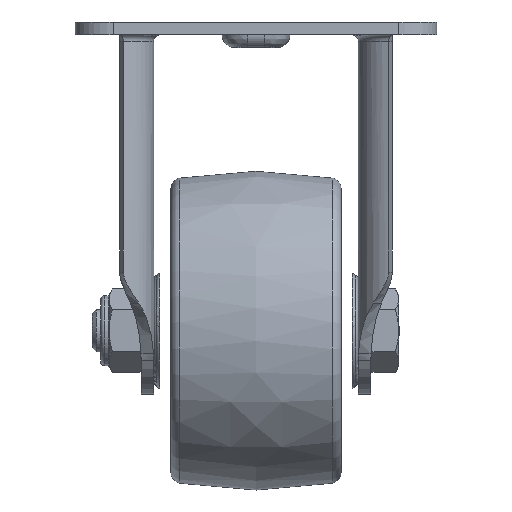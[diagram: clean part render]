
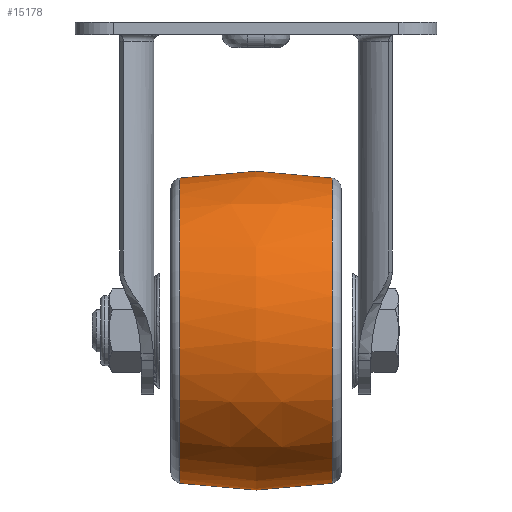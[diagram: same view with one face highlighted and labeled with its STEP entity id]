
A CAD part, left-side view. The second image highlights one B-rep face of the part: STEP entity #15178.
In plain terms, the highlighted free-form (B-spline) face has degree [2, 2] with [3, 9] control points.
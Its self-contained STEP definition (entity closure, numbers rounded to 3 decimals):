
#106=(
BOUNDED_SURFACE()
B_SPLINE_SURFACE(2,2,((#22804,#22805,#22806,#22807,#22808,#22809,#22810,
#22811,#22812),(#22813,#22814,#22815,#22816,#22817,#22818,#22819,#22820,
#22821),(#22822,#22823,#22824,#22825,#22826,#22827,#22828,#22829,#22830)),
 .UNSPECIFIED.,.F.,.T.,.F.)
B_SPLINE_SURFACE_WITH_KNOTS((3,3),(3,2,2,2,3),(-0.18,0.18),
(-3.142,-1.571,0.,1.571,3.142),
 .UNSPECIFIED.)
GEOMETRIC_REPRESENTATION_ITEM()
RATIONAL_B_SPLINE_SURFACE(((1.,0.707,1.,0.707,1.,
0.707,1.,0.707,1.),(0.984,0.696,
0.984,0.696,0.984,0.696,
0.984,0.696,0.984),(1.,0.707,
1.,0.707,1.,0.707,1.,0.707,1.)))
REPRESENTATION_ITEM('')
SURFACE()
);
#144=CIRCLE('',#15900,35.876);
#145=CIRCLE('',#15901,100.);
#146=CIRCLE('',#15902,35.876);
#1772=FACE_OUTER_BOUND('',#2631,.T.);
#2631=EDGE_LOOP('',(#11605,#11606,#11607,#11608));
#6728=VERTEX_POINT('',#22801);
#6729=VERTEX_POINT('',#22831);
#8596=EDGE_CURVE('',#6728,#6728,#144,.T.);
#8597=EDGE_CURVE('',#6728,#6729,#145,.T.);
#8598=EDGE_CURVE('',#6729,#6729,#146,.T.);
#11605=ORIENTED_EDGE('',*,*,#8596,.F.);
#11606=ORIENTED_EDGE('',*,*,#8597,.T.);
#11607=ORIENTED_EDGE('',*,*,#8598,.T.);
#11608=ORIENTED_EDGE('',*,*,#8597,.F.);
#15178=ADVANCED_FACE('',(#1772),#106,.F.);
#15900=AXIS2_PLACEMENT_3D('',#22803,#17612,#17613);
#15901=AXIS2_PLACEMENT_3D('',#22832,#17614,#17615);
#15902=AXIS2_PLACEMENT_3D('',#22833,#17616,#17617);
#17612=DIRECTION('center_axis',(0.,-1.,0.));
#17613=DIRECTION('ref_axis',(0.6,0.,-0.8));
#17614=DIRECTION('center_axis',(-0.8,0.,-0.6));
#17615=DIRECTION('ref_axis',(-0.6,0.,0.8));
#17616=DIRECTION('center_axis',(0.,-1.,0.));
#17617=DIRECTION('ref_axis',(0.6,0.,-0.8));
#22801=CARTESIAN_POINT('',(-21.543,-17.949,-43.812));
#22803=CARTESIAN_POINT('Origin',(0.,-17.949,
-72.5));
#22804=CARTESIAN_POINT('Ctrl Pts',(-21.543,17.949,-43.812));
#22805=CARTESIAN_POINT('Ctrl Pts',(-50.231,17.949,-65.356));
#22806=CARTESIAN_POINT('Ctrl Pts',(-28.688,17.949,-94.043));
#22807=CARTESIAN_POINT('Ctrl Pts',(-7.144,17.949,-122.731));
#22808=CARTESIAN_POINT('Ctrl Pts',(21.543,17.949,-101.188));
#22809=CARTESIAN_POINT('Ctrl Pts',(50.231,17.949,-79.644));
#22810=CARTESIAN_POINT('Ctrl Pts',(28.688,17.949,-50.957));
#22811=CARTESIAN_POINT('Ctrl Pts',(7.144,17.949,-22.269));
#22812=CARTESIAN_POINT('Ctrl Pts',(-21.543,17.949,-43.812));
#22813=CARTESIAN_POINT('Ctrl Pts',(-23.51,0.,
-41.194));
#22814=CARTESIAN_POINT('Ctrl Pts',(-54.816,0.,
-64.704));
#22815=CARTESIAN_POINT('Ctrl Pts',(-31.306,0.,
-96.01));
#22816=CARTESIAN_POINT('Ctrl Pts',(-7.796,0.,
-127.316));
#22817=CARTESIAN_POINT('Ctrl Pts',(23.51,0.,
-103.806));
#22818=CARTESIAN_POINT('Ctrl Pts',(54.816,0.,
-80.296));
#22819=CARTESIAN_POINT('Ctrl Pts',(31.306,0.,
-48.99));
#22820=CARTESIAN_POINT('Ctrl Pts',(7.796,0.,
-17.684));
#22821=CARTESIAN_POINT('Ctrl Pts',(-23.51,0.,
-41.194));
#22822=CARTESIAN_POINT('Ctrl Pts',(-21.543,-17.949,
-43.812));
#22823=CARTESIAN_POINT('Ctrl Pts',(-50.231,-17.949,-65.356));
#22824=CARTESIAN_POINT('Ctrl Pts',(-28.688,-17.949,
-94.043));
#22825=CARTESIAN_POINT('Ctrl Pts',(-7.144,-17.949,
-122.731));
#22826=CARTESIAN_POINT('Ctrl Pts',(21.543,-17.949,-101.188));
#22827=CARTESIAN_POINT('Ctrl Pts',(50.231,-17.949,-79.644));
#22828=CARTESIAN_POINT('Ctrl Pts',(28.688,-17.949,-50.957));
#22829=CARTESIAN_POINT('Ctrl Pts',(7.144,-17.949,-22.269));
#22830=CARTESIAN_POINT('Ctrl Pts',(-21.543,-17.949,
-43.812));
#22831=CARTESIAN_POINT('',(-21.543,17.949,-43.812));
#22832=CARTESIAN_POINT('Origin',(37.531,0.,
-122.477));
#22833=CARTESIAN_POINT('Origin',(0.,17.949,
-72.5));
